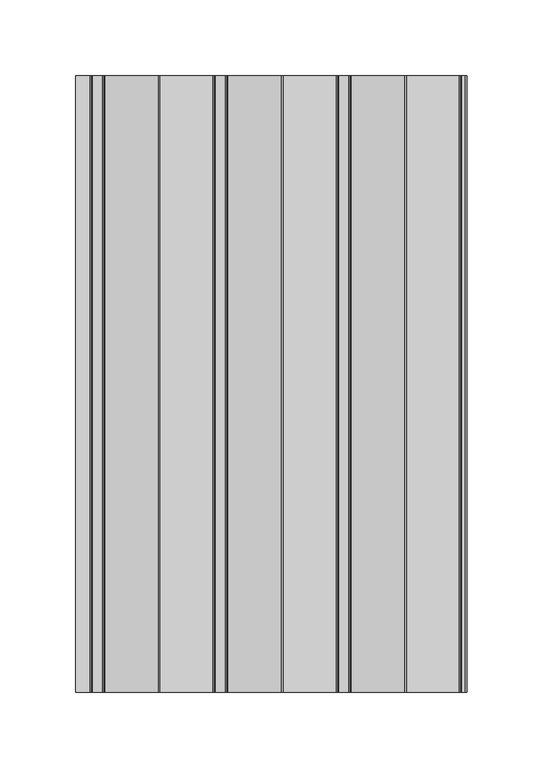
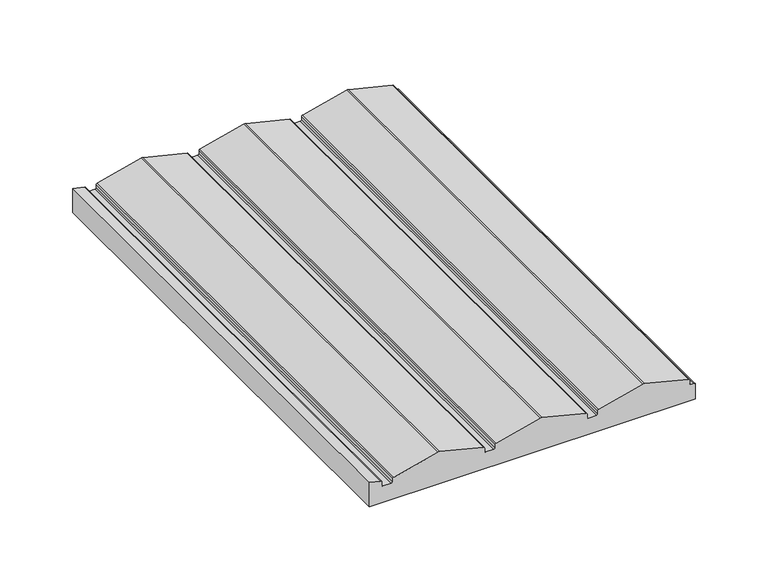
"""IFC4 building model written with IfcOpenShell, lengths in millimetres: proxy geometry, Spinneybeck_Porto 2 : Porto 2."""

from ifc_helpers import new_model, si_unit, point, frame, frame_2d, origin, place, context, project, spatial, polyline, circle_curve, trimmed, segment, composite_curve, outline, extrude, source, transform, mapped, element, save


def specialty_equipment_d38fff4d(model_context):
    return source(origin(), model_context, "Body", "SweptSolid", [
        extrude(outline(composite_curve([segment(polyline([(0.0, -55.0128011), (0.0, 203.2), (12.5078125, 203.2)]), True, "CONTINUOUS"), segment(trimmed(circle_curve(frame_2d((12.5078125, 202.2078125)), 0.9921875), [point((12.5078125, 203.2))], [point((13.5, 202.2078125))], False, "CARTESIAN"), True, "CONTINUOUS"), segment(polyline([(13.5, 202.2078125), (13.5, 199.9465867)]), True, "CONTINUOUS"), segment(trimmed(circle_curve(frame_2d((14.4921875, 199.9465867)), 0.9921875), [point((13.5, 199.9465867))], [point((14.4921875, 198.9543992))], True, "CARTESIAN"), True, "CONTINUOUS"), segment(polyline([(14.4921875, 198.9543992), (17.1606187, 198.9543992)]), True, "CONTINUOUS"), segment(trimmed(circle_curve(frame_2d((17.1606187, 197.9749387)), 0.9794605), [point((17.1606187, 198.9543992))], [point((18.1109851, 198.2118916))], False, "CARTESIAN"), True, "CONTINUOUS"), segment(polyline([(18.1109851, 198.2118916), (26.7965213, 163.3761084)]), True, "CONTINUOUS"), segment(trimmed(circle_curve(frame_2d((23.5232893, 162.56)), 3.3734375), [point((26.7965213, 163.3761084))], [point((26.7965213, 161.7438916))], False, "CARTESIAN"), True, "CONTINUOUS"), segment(polyline([(26.7965213, 161.7438916), (18.1109851, 126.9081084)]), True, "CONTINUOUS"), segment(trimmed(circle_curve(frame_2d((17.1606187, 127.1450613)), 0.9794605), [point((18.1109851, 126.9081084))], [point((17.1606187, 126.1656008))], False, "CARTESIAN"), True, "CONTINUOUS"), segment(polyline([(17.1606187, 126.1656008), (14.4921875, 126.1656008)]), True, "CONTINUOUS"), segment(trimmed(circle_curve(frame_2d((14.4921875, 125.1734133)), 0.9921875), [point((14.4921875, 126.1656008))], [point((13.5, 125.1734133))], True, "CARTESIAN"), True, "CONTINUOUS"), segment(polyline([(13.5, 125.1734133), (13.5, 118.6665867)]), True, "CONTINUOUS"), segment(trimmed(circle_curve(frame_2d((14.4921875, 118.6665867)), 0.9921875), [point((13.5, 118.6665867))], [point((14.4921875, 117.6743992))], True, "CARTESIAN"), True, "CONTINUOUS"), segment(polyline([(14.4921875, 117.6743992), (17.1606187, 117.6743992)]), True, "CONTINUOUS"), segment(trimmed(circle_curve(frame_2d((17.1606187, 116.6949387)), 0.9794605), [point((17.1606187, 117.6743992))], [point((18.1109851, 116.9318916))], False, "CARTESIAN"), True, "CONTINUOUS"), segment(polyline([(18.1109851, 116.9318916), (26.7965213, 82.0961084)]), True, "CONTINUOUS"), segment(trimmed(circle_curve(frame_2d((23.5232893, 81.28)), 3.3734375), [point((26.7965213, 82.0961084))], [point((26.7965213, 80.4638916))], False, "CARTESIAN"), True, "CONTINUOUS"), segment(polyline([(26.7965213, 80.4638916), (18.1109851, 45.6281084)]), True, "CONTINUOUS"), segment(trimmed(circle_curve(frame_2d((17.1606187, 45.8650613)), 0.9794605), [point((18.1109851, 45.6281084))], [point((17.1606187, 44.8856008))], False, "CARTESIAN"), True, "CONTINUOUS"), segment(polyline([(17.1606187, 44.8856008), (14.4921875, 44.8856008)]), True, "CONTINUOUS"), segment(trimmed(circle_curve(frame_2d((14.4921875, 43.8934133)), 0.9921875), [point((14.4921875, 44.8856008))], [point((13.5, 43.8934133))], True, "CARTESIAN"), True, "CONTINUOUS"), segment(polyline([(13.5, 43.8934133), (13.5, 37.3865867)]), True, "CONTINUOUS"), segment(trimmed(circle_curve(frame_2d((14.4921875, 37.3865867)), 0.9921875), [point((13.5, 37.3865867))], [point((14.4921875, 36.3943992))], True, "CARTESIAN"), True, "CONTINUOUS"), segment(polyline([(14.4921875, 36.3943992), (17.1606187, 36.3943992)]), True, "CONTINUOUS"), segment(trimmed(circle_curve(frame_2d((17.1606187, 35.4149387)), 0.9794605), [point((17.1606187, 36.3943992))], [point((18.1109851, 35.6518916))], False, "CARTESIAN"), True, "CONTINUOUS"), segment(polyline([(18.1109851, 35.6518916), (26.7965213, 0.8161084)]), True, "CONTINUOUS"), segment(trimmed(circle_curve(frame_2d((23.5232893, 0.0)), 3.3734375), [point((26.7965213, 0.8161084))], [point((26.7965213, -0.8161084))], False, "CARTESIAN"), True, "CONTINUOUS"), segment(polyline([(26.7965213, -0.8161084), (18.1109851, -35.6518916)]), True, "CONTINUOUS"), segment(trimmed(circle_curve(frame_2d((17.1606187, -35.4149387)), 0.9794605), [point((18.1109851, -35.6518916))], [point((17.1606187, -36.3943992))], False, "CARTESIAN"), True, "CONTINUOUS"), segment(polyline([(17.1606187, -36.3943992), (14.4921875, -36.3943992)]), True, "CONTINUOUS"), segment(trimmed(circle_curve(frame_2d((14.4921875, -37.3865867)), 0.9921875), [point((14.4921875, -36.3943992))], [point((13.5, -37.3865867))], True, "CARTESIAN"), True, "CONTINUOUS"), segment(polyline([(13.5, -37.3865867), (13.5, -43.8934133)]), True, "CONTINUOUS"), segment(trimmed(circle_curve(frame_2d((14.4921875, -43.8934133)), 0.9921875), [point((13.5, -43.8934133))], [point((14.4921875, -44.8856008))], True, "CARTESIAN"), True, "CONTINUOUS"), segment(polyline([(14.4921875, -44.8856008), (17.1606187, -44.8856008)]), True, "CONTINUOUS"), segment(trimmed(circle_curve(frame_2d((17.1606187, -45.8650613)), 0.9794605), [point((17.1606187, -44.8856008))], [point((18.1109851, -45.6281084))], False, "CARTESIAN"), True, "CONTINUOUS"), segment(polyline([(18.1109851, -45.6281084), (20.4508518, -55.0128011), (0.0, -55.0128011)]), True, "CONTINUOUS")], self_intersect=False)), frame((0.0, -203.2, 0.0), z_axis=(0.0, 1.0, 0.0), x_axis=(0.0, 0.0, 1.0)), (0.0, 0.0, 1.0), 406.4),
    ])


if __name__ == "__main__":
    model = new_model("IFC4")
    model_context = context("Model", 3, world=origin())
    ifc_project = project(units=[si_unit("LENGTHUNIT", "METRE", prefix="MILLI")], contexts=[model_context])
    site = spatial("IfcSite", under=ifc_project)
    building = spatial("IfcBuilding", under=site)
    placement = place(None, origin())
    specialty_equipment_shape = specialty_equipment_d38fff4d(model_context)
    element("IfcBuildingElementProxy", 1, Name="Spinneybeck_Porto 2 : Porto 2", ObjectType="Spinneybeck_Porto 2 : Porto 2", at=placement, inside=building, context=model_context, shape_type="MappedRepresentation", body=[
        mapped(specialty_equipment_shape, transform((0.0, 0.0, 0.0), x_axis=(1.0, 0.0, 0.0), y_axis=(0.0, 1.0, 0.0), z_axis=(0.0, 0.0, 1.0))),
    ])
    save(model, "model.ifc")
